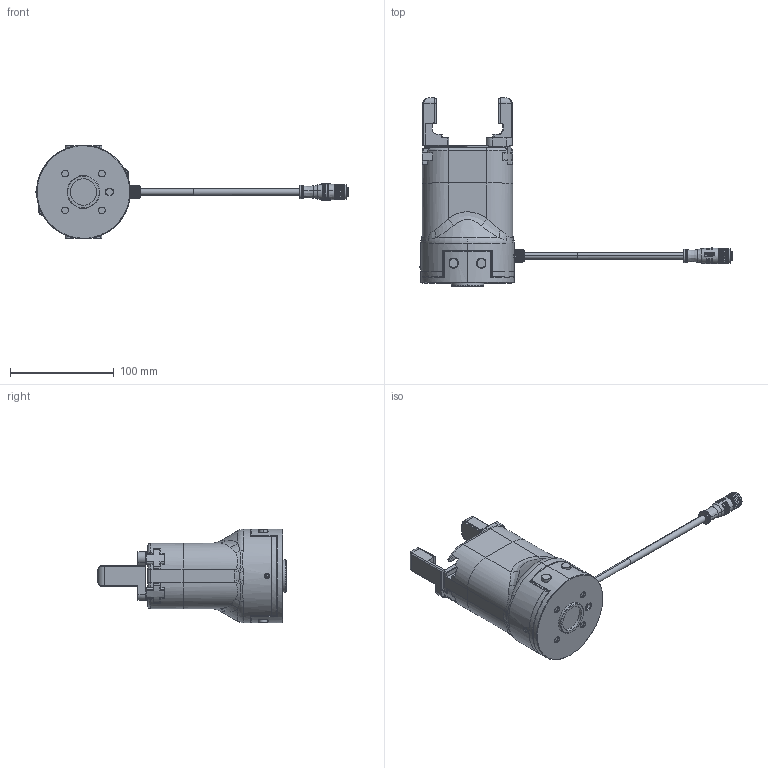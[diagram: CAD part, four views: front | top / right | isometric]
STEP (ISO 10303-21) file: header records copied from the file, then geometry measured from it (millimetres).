
FILE_DESCRIPTION (( 'STEP AP203' ), '1' );
FILE_NAME ('PGC-300-60-W-S_潠眢耀倰_v3.0_20251016.STEP', '2025-10-16T07:00:23', ( '' ), ( '' ), 'SwSTEP 2.0', 'SolidWorks 2020', '' );
FILE_SCHEMA (( 'CONFIG_CONTROL_DESIGN' ));
Length unit declared in the file: millimetre
Products named in the file (4): PGC-300-60-W-S_潠眢耀倰_v3.0_20251016; 葩璃 PGC300-60-硌潑^蚾饜极22; 复件 PGC300-60-指尖基座^装配体22; 葩璃 PGC300-60-價极^蚾饜极22
Assembly tree (5 placements, depth 2):
  PGC-300-60-W-S_潠眢耀倰_v3.0_20251016
    葩璃 PGC300-60-價极^蚾饜极22
    复件 PGC300-60-指尖基座^装配体22  x2
    葩璃 PGC300-60-硌潑^蚾饜极22  x2
Bounding box: 300.25 x 181 x 90 mm (x, y, z)
Volume: 47331.3 mm3; surface area: 123229.5 mm2
Topology: 10 solids, 23 shells, 1467 faces, 3644 edges, 2285 vertices
Faces by surface type: plane 551, cylinder 348, bspline 295, cone 228, torus 43, sphere 2
Full cylindrical faces by diameter (mm): 11.1 x3
Entity records: 64837 total; most frequent: CARTESIAN_POINT 41096, ORIENTED_EDGE 6235, EDGE_CURVE 3129, DIRECTION 2570, B_SPLINE_CURVE_WITH_KNOTS 2390, VERTEX_POINT 1985, EDGE_LOOP 1363, FACE_OUTER_BOUND 1259
